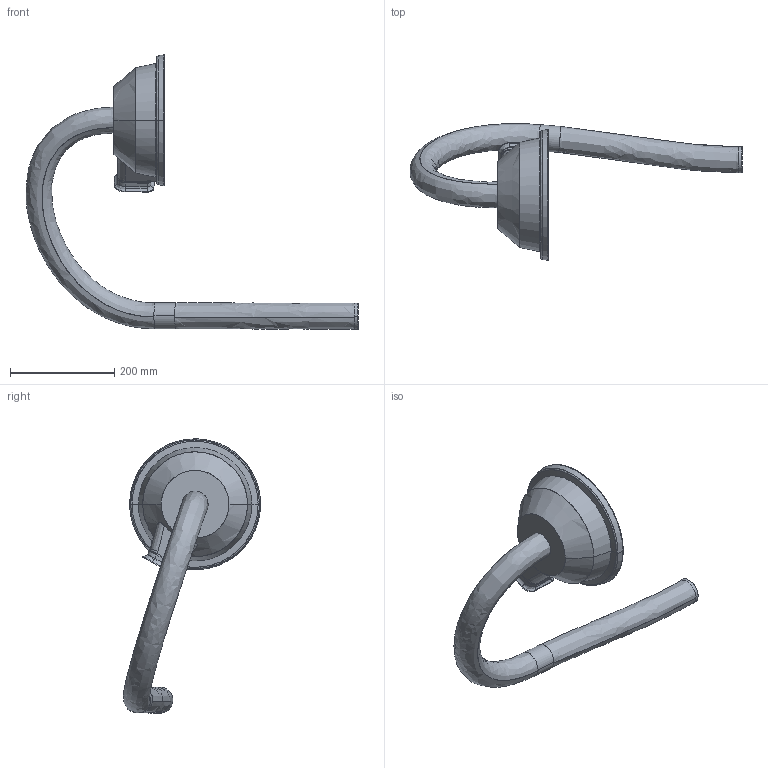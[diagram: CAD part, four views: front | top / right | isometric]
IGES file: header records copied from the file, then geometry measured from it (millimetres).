
Start section: SolidWorks IGES file using analytic representation for surfaces
Global section: file name: C:\Users\SEAMSTO1\OneDrive - ABB\PT\Macro\IGES\IRB6760-MH3_200kg-320_OC_00_IGES_J\IRB6760-MH3_All_OC_00_LINK03b_CABLE.igs; native system: SolidWorks 2024; preprocessor: SolidWorks 2024; author: SEAMSTO1; date: 250930.151453; units: millimetre
Bounding box: 637.24 x 263.19 x 526.62 mm (x, y, z)
Surface area: 306741.9 mm2 (no closed solid volume)
Topology: 0 solids, 0 shells, 110 faces, 1155 edges, 1155 vertices
Faces by surface type: bspline 68, revolution 42
